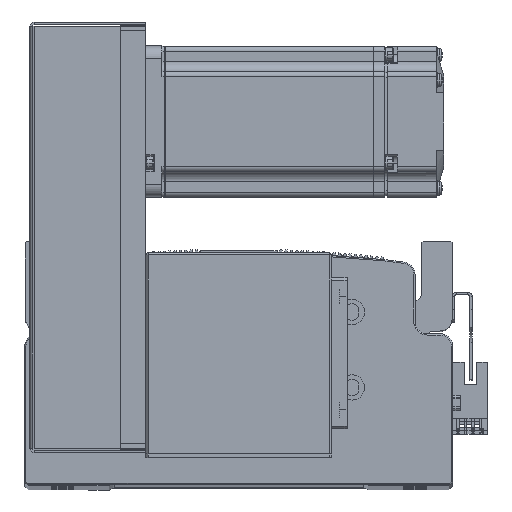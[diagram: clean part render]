
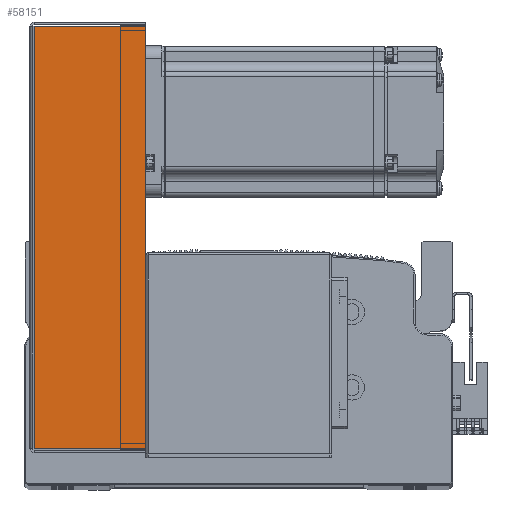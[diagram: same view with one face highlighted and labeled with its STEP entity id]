
A CAD part, top view. The second image highlights one B-rep face of the part: STEP entity #58151.
In plain terms, the highlighted planar face has unit normal (0, 0, 1) as drawn and (0, 0, -1) by its records, which use the part's own axes.
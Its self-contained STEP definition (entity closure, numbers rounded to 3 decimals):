
#15478 = CARTESIAN_POINT ( 'NONE',  ( -83.793, 0.737, -40.5 ) ) ;
#15484 = CARTESIAN_POINT ( 'NONE',  ( 83.793, 0.737, -40.5 ) ) ;
#15537 = CARTESIAN_POINT ( 'NONE',  ( -83.793, 45., -40.5 ) ) ;
#15557 = CARTESIAN_POINT ( 'NONE',  ( 83.793, 45., -40.5 ) ) ;
#45669 = EDGE_LOOP ( 'NONE', ( #80818, #80736, #80744, #80738 ) ) ;
#51507 = VERTEX_POINT ( 'NONE', #15478 ) ;
#51509 = VERTEX_POINT ( 'NONE', #15484 ) ;
#51521 = VERTEX_POINT ( 'NONE', #15537 ) ;
#51528 = VERTEX_POINT ( 'NONE', #15557 ) ;
#58151 = ADVANCED_FACE ( 'NONE', ( #80281 ), #63079, .F. ) ;
#62498 = AXIS2_PLACEMENT_3D ( 'NONE', #63037, #63105, #63030 ) ;
#63030 = DIRECTION ( 'NONE',  ( 0., -1., 0. ) ) ;
#63037 = CARTESIAN_POINT ( 'NONE',  ( 0., 0., -40.5 ) ) ;
#63079 = PLANE ( 'NONE',  #62498 ) ;
#63105 = DIRECTION ( 'NONE',  ( 0., 0., 1. ) ) ;
#67114 = CARTESIAN_POINT ( 'NONE',  ( 84.5, 45., -40.5 ) ) ;
#67129 = DIRECTION ( 'NONE',  ( 1., 0., 0. ) ) ;
#67224 = DIRECTION ( 'NONE',  ( 0., 1., 0. ) ) ;
#67228 = CARTESIAN_POINT ( 'NONE',  ( 83.793, 0., -40.5 ) ) ;
#67232 = CARTESIAN_POINT ( 'NONE',  ( 0., 0.737, -40.5 ) ) ;
#67258 = DIRECTION ( 'NONE',  ( 0., 1., 0. ) ) ;
#67268 = CARTESIAN_POINT ( 'NONE',  ( -83.793, 0., -40.5 ) ) ;
#67270 = DIRECTION ( 'NONE',  ( 1., 0., 0. ) ) ;
#72272 = EDGE_CURVE ( 'NONE', #51521, #51528, #80769, .T. ) ;
#72296 = EDGE_CURVE ( 'NONE', #51507, #51521, #80713, .T. ) ;
#72298 = EDGE_CURVE ( 'NONE', #51509, #51528, #80705, .T. ) ;
#72300 = EDGE_CURVE ( 'NONE', #51507, #51509, #80699, .T. ) ;
#80281 = FACE_OUTER_BOUND ( 'NONE', #45669, .T. ) ;
#80669 = VECTOR ( 'NONE', #67129, 1000. ) ;
#80699 = LINE ( 'NONE', #67232, #80711 ) ;
#80705 = LINE ( 'NONE', #67228, #80709 ) ;
#80709 = VECTOR ( 'NONE', #67258, 1000. ) ;
#80711 = VECTOR ( 'NONE', #67270, 1000. ) ;
#80713 = LINE ( 'NONE', #67268, #80741 ) ;
#80736 = ORIENTED_EDGE ( 'NONE', *, *, #72296, .T. ) ;
#80738 = ORIENTED_EDGE ( 'NONE', *, *, #72298, .F. ) ;
#80741 = VECTOR ( 'NONE', #67224, 1000. ) ;
#80744 = ORIENTED_EDGE ( 'NONE', *, *, #72272, .T. ) ;
#80769 = LINE ( 'NONE', #67114, #80669 ) ;
#80818 = ORIENTED_EDGE ( 'NONE', *, *, #72300, .F. ) ;
